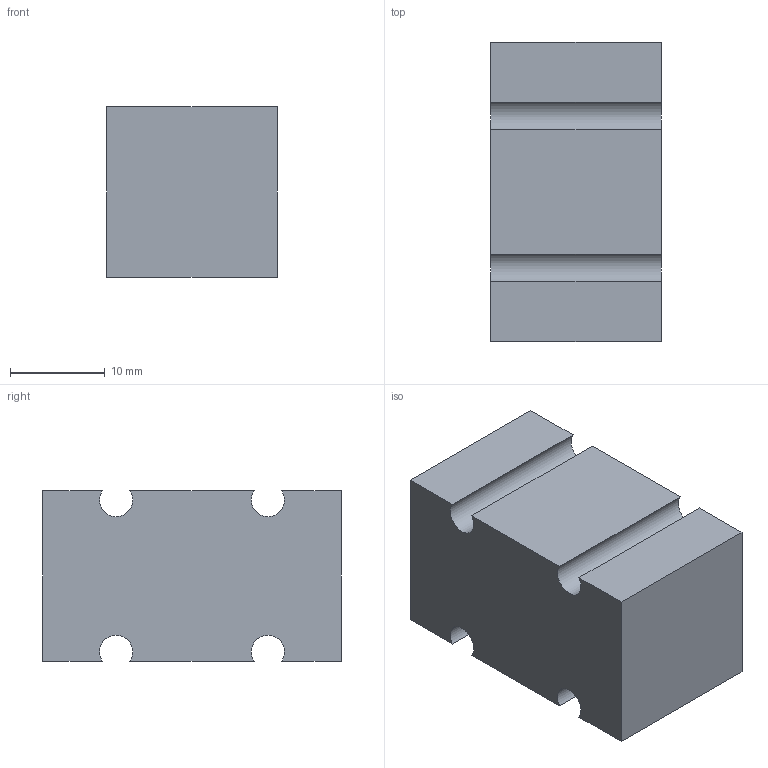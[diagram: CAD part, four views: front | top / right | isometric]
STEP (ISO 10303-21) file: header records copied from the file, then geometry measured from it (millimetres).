
FILE_DESCRIPTION(('FreeCAD Model'),'2;1');
FILE_NAME('Open CASCADE Shape Model','2026-11-08T23:31:28',('FreeCAD'),( 'FreeCAD'),'Open CASCADE STEP processor 7.8','FreeCAD','Unknown');
FILE_SCHEMA(('AUTOMOTIVE_DESIGN { 1 0 10303 214 1 1 1 1 }'));
Length unit declared in the file: millimetre
Products named in the file (1): Open CASCADE STEP translator 7.8 3
Bounding box: 18 x 31.5 x 18 mm (x, y, z)
Volume: 9622.1 mm3; surface area: 3193.4 mm2
Topology: 1 solids, 1 shells, 16 faces, 42 edges, 28 vertices
Faces by surface type: plane 10, cylinder 6
Entity records: 508 total; most frequent: DIRECTION 88, CARTESIAN_POINT 87, ORIENTED_EDGE 84, EDGE_CURVE 42, LINE 30, VECTOR 30, AXIS2_PLACEMENT_3D 29, VERTEX_POINT 28
